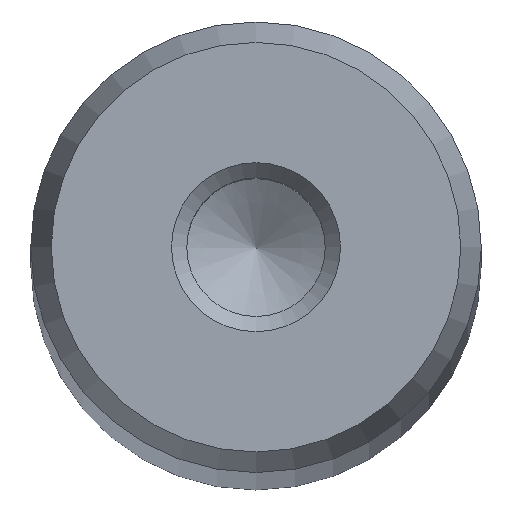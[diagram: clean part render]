
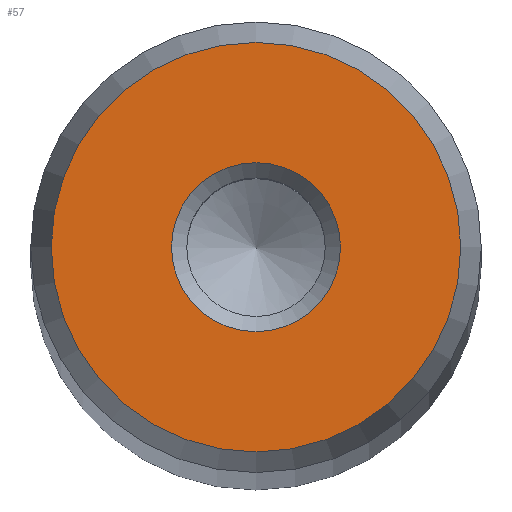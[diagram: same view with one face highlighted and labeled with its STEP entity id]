
A CAD part, top view. The second image highlights one B-rep face of the part: STEP entity #57.
In plain terms, the highlighted planar face has unit normal (0, 0, 1).
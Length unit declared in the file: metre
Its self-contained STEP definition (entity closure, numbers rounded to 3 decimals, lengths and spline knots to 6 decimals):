
#57 = ADVANCED_FACE( '', ( #120, #121 ), #122, .T. );
#120 = FACE_OUTER_BOUND( '', #179, .T. );
#121 = FACE_BOUND( '', #180, .T. );
#122 = PLANE( '', #181 );
#179 = EDGE_LOOP( '', ( #252 ) );
#180 = EDGE_LOOP( '', ( #253 ) );
#181 = AXIS2_PLACEMENT_3D( '', #254, #255, #256 );
#252 = ORIENTED_EDGE( '', *, *, #290, .T. );
#253 = ORIENTED_EDGE( '', *, *, #274, .T. );
#254 = CARTESIAN_POINT( '', ( 0., 0., 0.357 ) );
#255 = DIRECTION( '', ( 0., 0., 1. ) );
#256 = DIRECTION( '', ( 1., 0., 0. ) );
#274 = EDGE_CURVE( '', #304, #304, #305, .T. );
#290 = EDGE_CURVE( '', #327, #327, #328, .T. );
#304 = VERTEX_POINT( '', #341 );
#305 = CIRCLE( '', #342, 0.003 );
#327 = VERTEX_POINT( '', #364 );
#328 = CIRCLE( '', #365, 0.007272 );
#341 = CARTESIAN_POINT( '', ( 0.003, 0., 0.357 ) );
#342 = AXIS2_PLACEMENT_3D( '', #379, #380, #381 );
#364 = CARTESIAN_POINT( '', ( 0.007272, 0., 0.357 ) );
#365 = AXIS2_PLACEMENT_3D( '', #403, #404, #405 );
#379 = CARTESIAN_POINT( '', ( 0., 0., 0.357 ) );
#380 = DIRECTION( '', ( 0., 0., -1. ) );
#381 = DIRECTION( '', ( 1., 0., 0. ) );
#403 = CARTESIAN_POINT( '', ( 0., 0., 0.357 ) );
#404 = DIRECTION( '', ( 0., 0., 1. ) );
#405 = DIRECTION( '', ( 1., 0., 0. ) );
